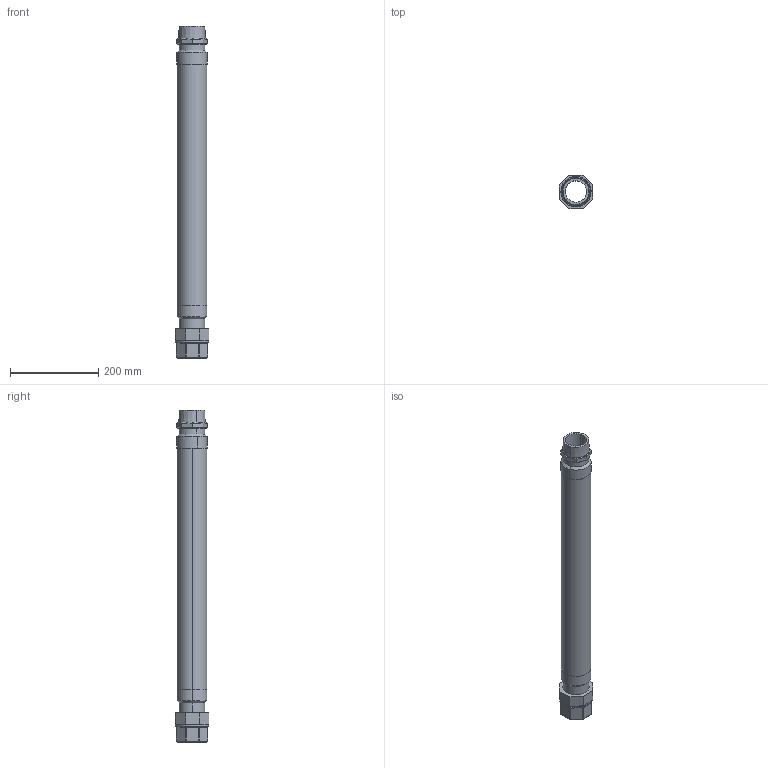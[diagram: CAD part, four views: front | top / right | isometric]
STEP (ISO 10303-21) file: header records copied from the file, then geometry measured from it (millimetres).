
FILE_DESCRIPTION (( 'STEP AP203' ), '1' );
FILE_NAME ('KP_T50-6S.step', '2011-08-08T11:47:04', ( '' ), ( '' ), 'SwSTEP 2.0', 'SolidWorks 2011', '' );
FILE_SCHEMA (( 'CONFIG_CONTROL_DESIGN' ));
Length unit declared in the file: millimetre
Products named in the file (1): KP_T50-6S
Bounding box: 77.11 x 77.11 x 753.8 mm (x, y, z)
Volume: 1117260.5 mm3; surface area: 297543.5 mm2
Topology: 1 solids, 1 shells, 154 faces, 336 edges, 193 vertices
Faces by surface type: plane 63, cylinder 55, sphere 18, cone 14, torus 4
Entity records: 4704 total; most frequent: CARTESIAN_POINT 1302, DIRECTION 729, ORIENTED_EDGE 656, EDGE_CURVE 328, AXIS2_PLACEMENT_3D 274, VERTEX_POINT 189, LINE 181, VECTOR 181
